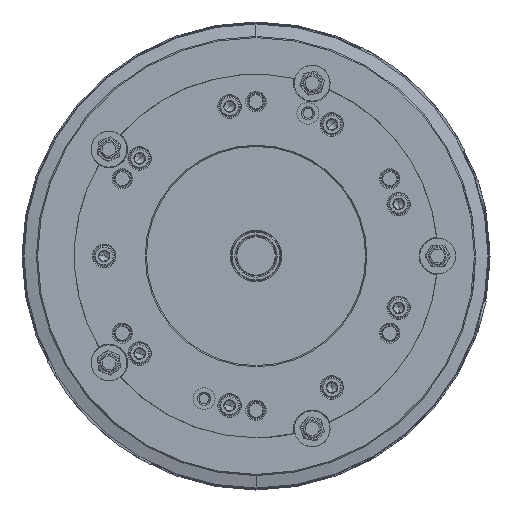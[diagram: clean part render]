
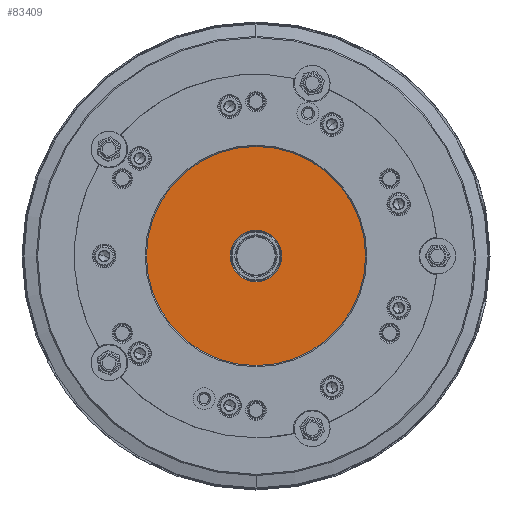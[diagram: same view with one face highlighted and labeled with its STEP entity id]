
A CAD part, left-side view. The second image highlights one B-rep face of the part: STEP entity #83409.
In plain terms, the highlighted planar face has unit normal (-1, 0, 0).
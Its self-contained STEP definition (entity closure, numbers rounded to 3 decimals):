
#1883 = DIRECTION ( 'NONE',  ( 0., 0., -1. ) ) ;
#4225 = DIRECTION ( 'NONE',  ( 0., 0., 1. ) ) ;
#6058 = AXIS2_PLACEMENT_3D ( 'NONE', #84908, #94021, #1883 ) ;
#11318 = VERTEX_POINT ( 'NONE', #63854 ) ;
#11978 = EDGE_CURVE ( 'NONE', #13032, #11318, #100988, .T. ) ;
#13013 = EDGE_CURVE ( 'NONE', #67313, #59295, #79585, .T. ) ;
#13032 = VERTEX_POINT ( 'NONE', #58819 ) ;
#15598 = EDGE_CURVE ( 'NONE', #59295, #67313, #100649, .T. ) ;
#15631 = CARTESIAN_POINT ( 'NONE',  ( -97., 0., 0. ) ) ;
#16788 = FACE_OUTER_BOUND ( 'NONE', #46466, .T. ) ;
#17600 = ORIENTED_EDGE ( 'NONE', *, *, #13013, .F. ) ;
#19612 = EDGE_CURVE ( 'NONE', #11318, #13032, #110146, .T. ) ;
#25896 = DIRECTION ( 'NONE',  ( 0., 0., -1. ) ) ;
#34928 = CARTESIAN_POINT ( 'NONE',  ( -97., 12.9, 0. ) ) ;
#35371 = DIRECTION ( 'NONE',  ( 0., 0., -1. ) ) ;
#40726 = ORIENTED_EDGE ( 'NONE', *, *, #15598, .F. ) ;
#46466 = EDGE_LOOP ( 'NONE', ( #40726, #17600 ) ) ;
#48684 = AXIS2_PLACEMENT_3D ( 'NONE', #34928, #53713, #4225 ) ;
#50253 = FACE_BOUND ( 'NONE', #75697, .T. ) ;
#53558 = DIRECTION ( 'NONE',  ( 1., 0., 0. ) ) ;
#53713 = DIRECTION ( 'NONE',  ( -1., 0., 0. ) ) ;
#54149 = CARTESIAN_POINT ( 'NONE',  ( -97., 0., 55. ) ) ;
#54509 = DIRECTION ( 'NONE',  ( 1., 0., 0. ) ) ;
#58819 = CARTESIAN_POINT ( 'NONE',  ( -97., 0., 12.9 ) ) ;
#59295 = VERTEX_POINT ( 'NONE', #75200 ) ;
#63854 = CARTESIAN_POINT ( 'NONE',  ( -97., 0., -12.9 ) ) ;
#67313 = VERTEX_POINT ( 'NONE', #54149 ) ;
#71633 = AXIS2_PLACEMENT_3D ( 'NONE', #119009, #53558, #35371 ) ;
#75200 = CARTESIAN_POINT ( 'NONE',  ( -97., 0., -55. ) ) ;
#75697 = EDGE_LOOP ( 'NONE', ( #115822, #79000 ) ) ;
#79000 = ORIENTED_EDGE ( 'NONE', *, *, #19612, .T. ) ;
#79585 = CIRCLE ( 'NONE', #6058, 55. ) ;
#83409 = ADVANCED_FACE ( 'NONE', ( #50253, #16788 ), #104851, .T. ) ;
#84908 = CARTESIAN_POINT ( 'NONE',  ( -97., 0., 0. ) ) ;
#90159 = DIRECTION ( 'NONE',  ( 1., 0., 0. ) ) ;
#93268 = DIRECTION ( 'NONE',  ( 0., 0., -1. ) ) ;
#94021 = DIRECTION ( 'NONE',  ( 1., 0., 0. ) ) ;
#100649 = CIRCLE ( 'NONE', #71633, 55. ) ;
#100988 = CIRCLE ( 'NONE', #106883, 12.9 ) ;
#101819 = CARTESIAN_POINT ( 'NONE',  ( -97., 0., 0. ) ) ;
#102356 = AXIS2_PLACEMENT_3D ( 'NONE', #101819, #54509, #93268 ) ;
#104851 = PLANE ( 'NONE',  #48684 ) ;
#106883 = AXIS2_PLACEMENT_3D ( 'NONE', #15631, #90159, #25896 ) ;
#110146 = CIRCLE ( 'NONE', #102356, 12.9 ) ;
#115822 = ORIENTED_EDGE ( 'NONE', *, *, #11978, .T. ) ;
#119009 = CARTESIAN_POINT ( 'NONE',  ( -97., 0., 0. ) ) ;
